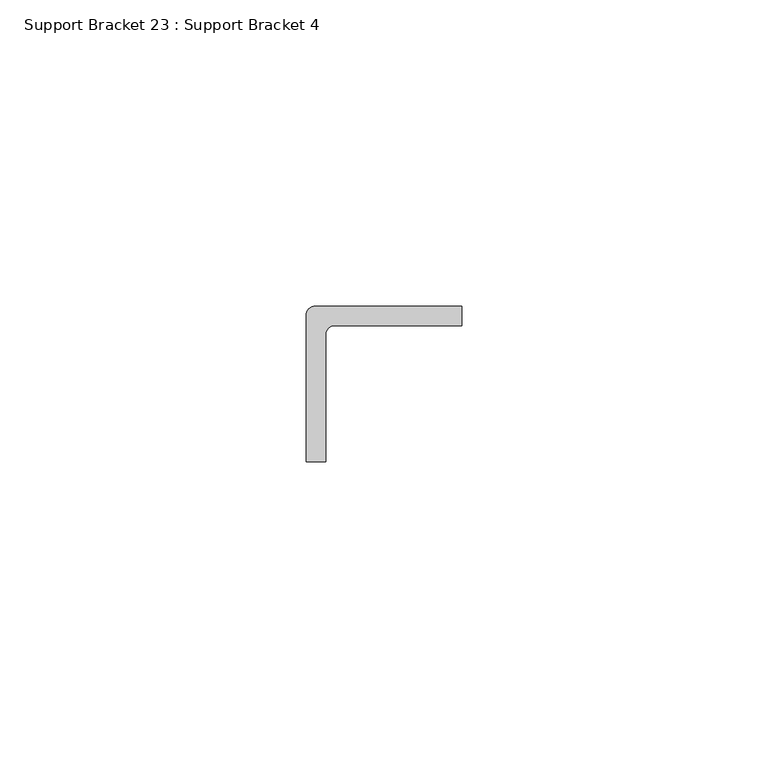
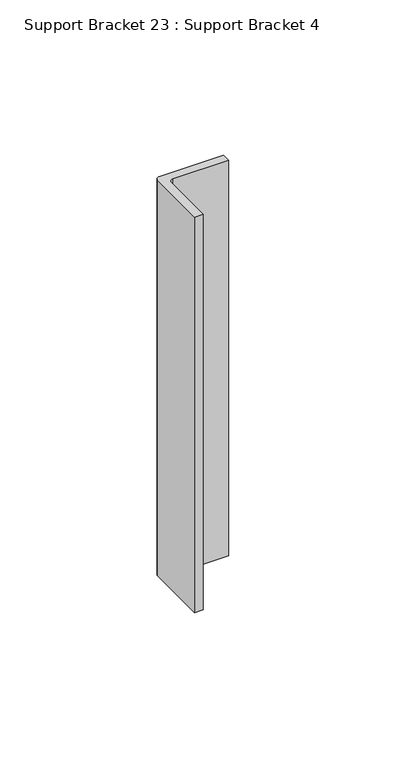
"""IFC4 building model written with IfcOpenShell, lengths in millimetres: proxy geometry, Support Bracket 23 : Support Bracket 4."""

from ifc_helpers import new_model, si_unit, point, frame, frame_2d, origin, place, context, project, spatial, polyline, circle_curve, trimmed, segment, composite_curve, outline, extrude, source, transform, mapped, element, save


def support_bracket_23_support_bracket_4_a1764723(model_context):
    return source(origin(), model_context, "Body", "SweptSolid", [
        extrude(outline(composite_curve([segment(trimmed(circle_curve(frame_2d((15418.7430248, 2879.2156259)), 1.524), [point((15417.2190248, 2879.2156259))], [point((15418.7430248, 2880.7396259))], False, "CARTESIAN"), True, "CONTINUOUS"), segment(polyline([(15418.7430248, 2880.7396259), (15442.6190248, 2880.7396259), (15442.6190248, 2877.5646259), (15421.9180248, 2877.5646259)]), True, "CONTINUOUS"), segment(trimmed(circle_curve(frame_2d((15421.9180248, 2876.0406259)), 1.524), [point((15421.9180248, 2877.5646259))], [point((15420.3940248, 2876.0406259))], True, "CARTESIAN"), True, "CONTINUOUS"), segment(polyline([(15420.3940248, 2876.0406259), (15420.3940248, 2855.3396259), (15417.2190248, 2855.3396259), (15417.2190248, 2879.2156259)]), True, "CONTINUOUS")], self_intersect=False)), frame((0.0, 0.0, 1014.7101563), z_axis=(0.0, 0.0, 1.0), x_axis=(1.0, 0.0, 0.0)), (0.0, 0.0, 1.0), 155.3941284),
    ])


if __name__ == "__main__":
    model = new_model("IFC4")
    model_context = context("Model", 3, world=origin())
    ifc_project = project(units=[si_unit("LENGTHUNIT", "METRE", prefix="MILLI")], contexts=[model_context])
    site = spatial("IfcSite", under=ifc_project)
    building = spatial("IfcBuilding", under=site)
    placement = place(None, origin())
    support_bracket_23_support_bracket_4_shape = support_bracket_23_support_bracket_4_a1764723(model_context)
    element("IfcBuildingElementProxy", 1, Name="Support Bracket 23 : Support Bracket 4", ObjectType="Support Bracket 23 : Support Bracket 4", at=placement, inside=building, context=model_context, shape_type="MappedRepresentation", body=[
        mapped(support_bracket_23_support_bracket_4_shape, transform((0.0, 0.0, 0.0), x_axis=(1.0, 0.0, 0.0), y_axis=(0.0, 1.0, 0.0), z_axis=(0.0, 0.0, 1.0))),
    ])
    save(model, "model.ifc")
